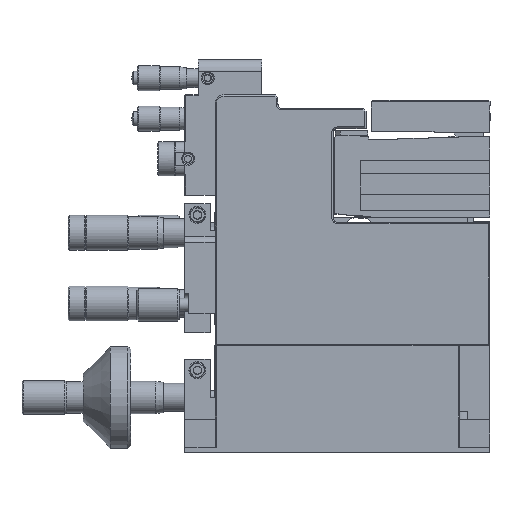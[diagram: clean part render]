
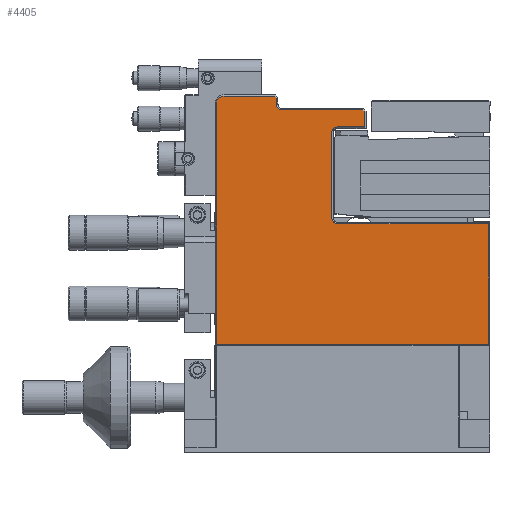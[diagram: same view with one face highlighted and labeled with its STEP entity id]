
A CAD part, top view. The second image highlights one B-rep face of the part: STEP entity #4405.
In plain terms, the highlighted planar face has unit normal (0, 0, 1).
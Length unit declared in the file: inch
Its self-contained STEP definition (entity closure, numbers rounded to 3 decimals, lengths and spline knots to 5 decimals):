
#2970=EDGE_CURVE('P5-LM-MMMM-N-2-HN-SI[2]',#9693,#9694,#9695,.T.);
#3335=EDGE_CURVE('P5-LM-MMMM-N-2-HN-SI[2]',#10296,#10297,#10298,.F.);
#3618=EDGE_CURVE('P5-LM-MMMM-N-2-HN-SI[2]',#10756,#10757,#10758,.T.);
#4405=ADVANCED_FACE('P5-LM-MMMM-N-2-HN-SI[2]',(#11980),#11981,.T.);
#4603=EDGE_CURVE('P5-LM-MMMM-N-2-HN-SI[2]',#10647,#12277,#12278,.T.);
#5304=EDGE_CURVE('P5-LM-MMMM-N-2-HN-SI[2]',#13277,#10774,#13278,.T.);
#5380=EDGE_CURVE('P5-LM-MMMM-N-2-HN-SI[2]',#10757,#13415,#13416,.T.);
#5483=EDGE_CURVE('P5-LM-MMMM-N-2-HN-SI[2]',#12277,#13566,#13567,.T.);
#5782=EDGE_CURVE('P5-LM-MMMM-N-2-HN-SI[2]',#10297,#13277,#13971,.F.);
#5940=EDGE_CURVE('P5-LM-MMMM-N-2-HN-SI[2]',#10989,#10296,#14186,.T.);
#5992=EDGE_CURVE('P5-LM-MMMM-N-2-HN-SI[2]',#13350,#13240,#14258,.T.);
#6155=EDGE_CURVE('P5-LM-MMMM-N-2-HN-SI[2]',#10774,#13350,#14475,.T.);
#6209=EDGE_CURVE('P5-LM-MMMM-N-2-HN-SI[2]',#13566,#10756,#14545,.T.);
#6628=EDGE_CURVE('P5-LM-MMMM-N-2-HN-SI[2]',#10989,#9694,#15088,.T.);
#7409=EDGE_CURVE('P5-LM-MMMM-N-2-HN-SI[2]',#10171,#9693,#16084,.T.);
#8072=EDGE_CURVE('P5-LM-MMMM-N-2-HN-SI[2]',#13240,#10647,#16908,.T.);
#9235=EDGE_CURVE('P5-LM-MMMM-N-2-HN-SI[2]',#13415,#10171,#18331,.T.);
#9693=VERTEX_POINT('',#18880);
#9694=VERTEX_POINT('',#18881);
#9695=LINE('',#18882,#18883);
#10171=VERTEX_POINT('',#19534);
#10296=VERTEX_POINT('',#19704);
#10297=VERTEX_POINT('',#19705);
#10298=CIRCLE('',#19706,0.11);
#10647=VERTEX_POINT('',#20238);
#10756=VERTEX_POINT('',#20388);
#10757=VERTEX_POINT('',#20389);
#10758=CIRCLE('',#20390,0.085);
#10774=VERTEX_POINT('',#20413);
#10989=VERTEX_POINT('',#20720);
#11980=FACE_OUTER_BOUND('',#22215,.T.);
#11981=PLANE('',#22216);
#12277=VERTEX_POINT('',#22662);
#12278=LINE('',#22663,#22664);
#13240=VERTEX_POINT('',#24117);
#13277=VERTEX_POINT('',#24175);
#13278=LINE('',#24176,#24177);
#13350=VERTEX_POINT('',#24265);
#13415=VERTEX_POINT('',#24357);
#13416=LINE('',#24358,#24359);
#13566=VERTEX_POINT('',#24583);
#13567=LINE('',#24584,#24585);
#13971=LINE('',#25218,#25219);
#14186=LINE('',#25554,#25555);
#14258=CIRCLE('',#25658,0.085);
#14475=LINE('',#26002,#26003);
#14545=LINE('',#26112,#26113);
#15088=LINE('',#27016,#27017);
#16084=LINE('',#28559,#28560);
#16908=LINE('',#29845,#29846);
#18331=CIRCLE('',#32162,0.085);
#18880=CARTESIAN_POINT('',(-1.02,-2.32,0.875));
#18881=CARTESIAN_POINT('',(-1.02,-4.1,0.875));
#18882=CARTESIAN_POINT('',(-1.02,-3.485,0.875));
#18883=VECTOR('',#32901,1.0);
#19534=CARTESIAN_POINT('',(-3.245,-2.32,0.875));
#19704=CARTESIAN_POINT('',(-5.03,-0.55,0.875));
#19705=CARTESIAN_POINT('',(-4.92,-0.44,0.875));
#19706=AXIS2_PLACEMENT_3D('',#33631,#33632,#33633);
#20238=CARTESIAN_POINT('',(-2.87328,-0.645,0.875));
#20388=CARTESIAN_POINT('',(-3.245,-0.895,0.875));
#20389=CARTESIAN_POINT('',(-3.33,-0.98,0.875));
#20390=AXIS2_PLACEMENT_3D('',#34096,#34097,#34098);
#20413=CARTESIAN_POINT('',(-4.145,-0.46828,0.875));
#20720=CARTESIAN_POINT('',(-5.03,-4.1,0.875));
#22215=EDGE_LOOP('',(#35300,#35301,#35302,#35303,#35304,#35305,#35306,#35307,#35308,#35309,#35310,#35311,#35312,#35313,#35314,#35315));
#22216=AXIS2_PLACEMENT_3D('',#35316,#35317,#35318);
#22662=CARTESIAN_POINT('',(-2.845,-0.67328,0.875));
#22663=CARTESIAN_POINT('',(-2.31539,-1.20289,0.875));
#22664=VECTOR('',#35667,1.0);
#24117=CARTESIAN_POINT('',(-4.06,-0.645,0.875));
#24175=CARTESIAN_POINT('',(-4.17328,-0.44,0.875));
#24176=CARTESIAN_POINT('',(-3.23914,-1.37414,0.875));
#24177=VECTOR('',#36707,1.0);
#24265=CARTESIAN_POINT('',(-4.145,-0.56,0.875));
#24357=CARTESIAN_POINT('',(-3.33,-2.235,0.875));
#24358=CARTESIAN_POINT('',(-3.33,-2.29125,0.875));
#24359=VECTOR('',#36888,1.0);
#24583=CARTESIAN_POINT('',(-2.845,-0.895,0.875));
#24584=CARTESIAN_POINT('',(-2.845,-1.875,0.875));
#24585=VECTOR('',#37033,1.0);
#25218=CARTESIAN_POINT('',(-3.025,-0.44,0.875));
#25219=VECTOR('',#37488,1.0);
#25554=CARTESIAN_POINT('',(-5.03,-1.73232,0.875));
#25555=VECTOR('',#37723,1.0);
#25658=AXIS2_PLACEMENT_3D('',#37820,#37821,#37822);
#26002=CARTESIAN_POINT('',(-4.145,-1.74875,0.875));
#26003=VECTOR('',#38045,1.0);
#26112=CARTESIAN_POINT('',(-3.02375,-0.895,0.875));
#26113=VECTOR('',#38120,1.0);
#27016=CARTESIAN_POINT('',(-3.025,-4.1,0.875));
#27017=VECTOR('',#38721,1.0);
#28559=CARTESIAN_POINT('',(-2.07125,-2.32,0.875));
#28560=VECTOR('',#39954,1.0);
#29845=CARTESIAN_POINT('',(-3.225,-0.645,0.875));
#29846=VECTOR('',#41013,1.0);
#32162=AXIS2_PLACEMENT_3D('',#42866,#42867,#42868);
#32901=DIRECTION('',(0.0,-1.0,-0.0));
#33631=CARTESIAN_POINT('',(-4.92,-0.55,0.875));
#33632=DIRECTION('',(0.0,0.0,1.0));
#33633=DIRECTION('',(-0.707,0.707,0.0));
#34096=CARTESIAN_POINT('',(-3.245,-0.98,0.875));
#34097=DIRECTION('',(0.0,0.0,1.0));
#34098=DIRECTION('',(-0.707,0.707,0.0));
#35300=ORIENTED_EDGE('',*,*,#5782,.F.);
#35301=ORIENTED_EDGE('',*,*,#3335,.F.);
#35302=ORIENTED_EDGE('',*,*,#5940,.F.);
#35303=ORIENTED_EDGE('',*,*,#6628,.T.);
#35304=ORIENTED_EDGE('',*,*,#2970,.F.);
#35305=ORIENTED_EDGE('',*,*,#7409,.F.);
#35306=ORIENTED_EDGE('',*,*,#9235,.F.);
#35307=ORIENTED_EDGE('',*,*,#5380,.F.);
#35308=ORIENTED_EDGE('',*,*,#3618,.F.);
#35309=ORIENTED_EDGE('',*,*,#6209,.F.);
#35310=ORIENTED_EDGE('',*,*,#5483,.F.);
#35311=ORIENTED_EDGE('',*,*,#4603,.F.);
#35312=ORIENTED_EDGE('',*,*,#8072,.F.);
#35313=ORIENTED_EDGE('',*,*,#5992,.F.);
#35314=ORIENTED_EDGE('',*,*,#6155,.F.);
#35315=ORIENTED_EDGE('',*,*,#5304,.F.);
#35316=CARTESIAN_POINT('',(-3.025,-3.0,0.875));
#35317=DIRECTION('',(0.0,0.0,1.0));
#35318=DIRECTION('',(0.0,-1.0,0.0));
#35667=DIRECTION('',(0.707,-0.707,0.0));
#36707=DIRECTION('',(0.707,-0.707,0.0));
#36888=DIRECTION('',(0.0,-1.0,0.0));
#37033=DIRECTION('',(0.0,-1.0,0.0));
#37488=DIRECTION('',(-1.0,0.0,0.0));
#37723=DIRECTION('',(0.0,1.0,0.0));
#37820=CARTESIAN_POINT('',(-4.06,-0.56,0.875));
#37821=DIRECTION('',(0.0,0.0,1.0));
#37822=DIRECTION('',(-0.707,-0.707,0.0));
#38045=DIRECTION('',(0.0,-1.0,-0.0));
#38120=DIRECTION('',(-1.0,0.0,0.0));
#38721=DIRECTION('',(1.0,0.0,0.0));
#39954=DIRECTION('',(1.0,0.0,0.0));
#41013=DIRECTION('',(1.0,0.0,0.0));
#42866=CARTESIAN_POINT('',(-3.245,-2.235,0.875));
#42867=DIRECTION('',(0.0,0.0,1.0));
#42868=DIRECTION('',(-0.707,-0.707,0.0));
